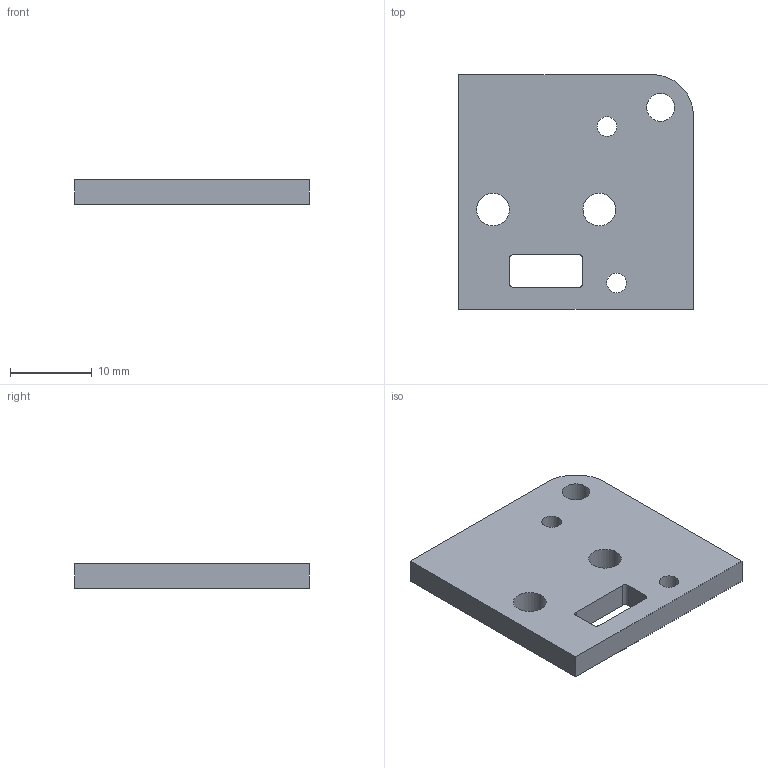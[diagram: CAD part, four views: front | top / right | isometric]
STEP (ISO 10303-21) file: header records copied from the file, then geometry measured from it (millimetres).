
FILE_DESCRIPTION(('Open CASCADE Model'),'2;1');
FILE_NAME('Open CASCADE Shape Model','2026-09-15T22:36:36',('Author'),( 'Open CASCADE'),'Open CASCADE STEP processor 7.9','Open CASCADE 7.9' ,'Unknown');
FILE_SCHEMA(('AUTOMOTIVE_DESIGN { 1 0 10303 214 1 1 1 1 }'));
Length unit declared in the file: millimetre
Products named in the file (1): Open CASCADE STEP translator 7.9 3
Bounding box: 28.7 x 28.7 x 3 mm (x, y, z)
Volume: 2217.8 mm3; surface area: 2044.6 mm2
Topology: 1 solids, 1 shells, 20 faces, 54 edges, 36 vertices
Faces by surface type: plane 10, cylinder 10
Full cylindrical faces by diameter (mm): 2.4 x2, 3.4 x1, 4 x2
Entity records: 1388 total; most frequent: CARTESIAN_POINT 295, DIRECTION 198, ORIENTED_EDGE 108, PCURVE 108, DEFINITIONAL_REPRESENTATION 108, LINE 106, VECTOR 106, EDGE_CURVE 54
